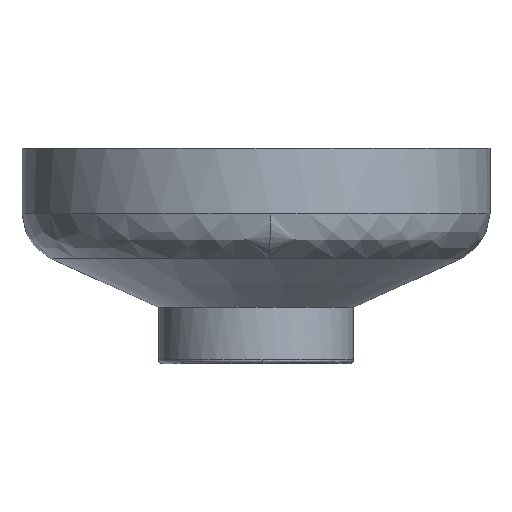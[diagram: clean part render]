
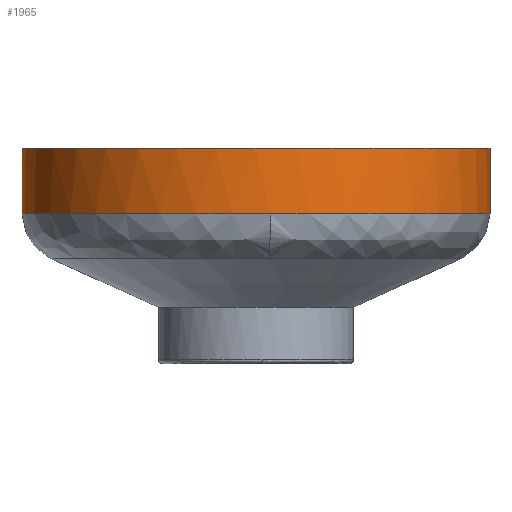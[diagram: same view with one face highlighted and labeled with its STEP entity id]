
A CAD part, front view. The second image highlights one B-rep face of the part: STEP entity #1965.
In plain terms, the highlighted cylindrical face has radius 35.306 mm (diameter 70.612 mm), a partial arc.
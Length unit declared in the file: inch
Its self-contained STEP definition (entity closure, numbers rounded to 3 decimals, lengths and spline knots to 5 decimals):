
#44 = VERTEX_POINT ( 'NONE', #1186 ) ;
#75 = CARTESIAN_POINT ( 'NONE',  ( -1.39, 0., -12.46233 ) ) ;
#132 = EDGE_LOOP ( 'NONE', ( #487, #1259, #2461, #2726, #762 ) ) ;
#285 = CARTESIAN_POINT ( 'NONE',  ( 0., 0., -10.7814 ) ) ;
#439 = CARTESIAN_POINT ( 'NONE',  ( 1.39, 0., -12.46233 ) ) ;
#470 = DIRECTION ( 'NONE',  ( 0., 0., -1. ) ) ;
#484 = DIRECTION ( 'NONE',  ( -0.062, 0.998, 0. ) ) ;
#486 = EDGE_CURVE ( 'NONE', #924, #1294, #2318, .T. ) ;
#487 = ORIENTED_EDGE ( 'NONE', *, *, #1586, .F. ) ;
#567 = VECTOR ( 'NONE', #2830, 39.37008 ) ;
#729 = CARTESIAN_POINT ( 'NONE',  ( 0., 0., -11.1714 ) ) ;
#762 = ORIENTED_EDGE ( 'NONE', *, *, #2818, .T. ) ;
#764 = CARTESIAN_POINT ( 'NONE',  ( 0.08597, -1.38734, -11.1714 ) ) ;
#924 = VERTEX_POINT ( 'NONE', #930 ) ;
#930 = CARTESIAN_POINT ( 'NONE',  ( 1.39, 0., -11.1714 ) ) ;
#945 = CIRCLE ( 'NONE', #2005, 1.39 ) ;
#1008 = DIRECTION ( 'NONE',  ( 0., 0., -1. ) ) ;
#1100 = EDGE_CURVE ( 'NONE', #924, #2241, #945, .T. ) ;
#1114 = CIRCLE ( 'NONE', #2524, 1.39 ) ;
#1186 = CARTESIAN_POINT ( 'NONE',  ( -1.39, 0., -10.7814 ) ) ;
#1246 = DIRECTION ( 'NONE',  ( 0., 0., 1. ) ) ;
#1259 = ORIENTED_EDGE ( 'NONE', *, *, #2457, .F. ) ;
#1294 = VERTEX_POINT ( 'NONE', #1484 ) ;
#1296 = DIRECTION ( 'NONE',  ( 0., 0., -1. ) ) ;
#1484 = CARTESIAN_POINT ( 'NONE',  ( 1.39, 0., -10.7814 ) ) ;
#1569 = CARTESIAN_POINT ( 'NONE',  ( 0., 0., -11.1714 ) ) ;
#1586 = EDGE_CURVE ( 'NONE', #2882, #44, #1907, .T. ) ;
#1593 = DIRECTION ( 'NONE',  ( 0., 0., 1. ) ) ;
#1617 = AXIS2_PLACEMENT_3D ( 'NONE', #2666, #1246, #2452 ) ;
#1645 = CARTESIAN_POINT ( 'NONE',  ( -1.39, 0., -11.1714 ) ) ;
#1907 = LINE ( 'NONE', #75, #567 ) ;
#1933 = DIRECTION ( 'NONE',  ( 1., 0., 0. ) ) ;
#1965 = ADVANCED_FACE ( 'NONE', ( #2419 ), #2634, .T. ) ;
#2005 = AXIS2_PLACEMENT_3D ( 'NONE', #1569, #1296, #2266 ) ;
#2241 = VERTEX_POINT ( 'NONE', #764 ) ;
#2266 = DIRECTION ( 'NONE',  ( -0.062, 0.998, 0. ) ) ;
#2318 = LINE ( 'NONE', #439, #2809 ) ;
#2419 = FACE_OUTER_BOUND ( 'NONE', #132, .T. ) ;
#2452 = DIRECTION ( 'NONE',  ( 1., 0., 0. ) ) ;
#2457 = EDGE_CURVE ( 'NONE', #2241, #2882, #2736, .T. ) ;
#2461 = ORIENTED_EDGE ( 'NONE', *, *, #1100, .F. ) ;
#2524 = AXIS2_PLACEMENT_3D ( 'NONE', #285, #1008, #1933 ) ;
#2634 = CYLINDRICAL_SURFACE ( 'NONE', #1617, 1.39 ) ;
#2666 = CARTESIAN_POINT ( 'NONE',  ( 0., 0., -12.46233 ) ) ;
#2726 = ORIENTED_EDGE ( 'NONE', *, *, #486, .T. ) ;
#2736 = CIRCLE ( 'NONE', #2976, 1.39 ) ;
#2809 = VECTOR ( 'NONE', #1593, 39.37008 ) ;
#2818 = EDGE_CURVE ( 'NONE', #1294, #44, #1114, .T. ) ;
#2830 = DIRECTION ( 'NONE',  ( 0., 0., 1. ) ) ;
#2882 = VERTEX_POINT ( 'NONE', #1645 ) ;
#2976 = AXIS2_PLACEMENT_3D ( 'NONE', #729, #470, #484 ) ;
